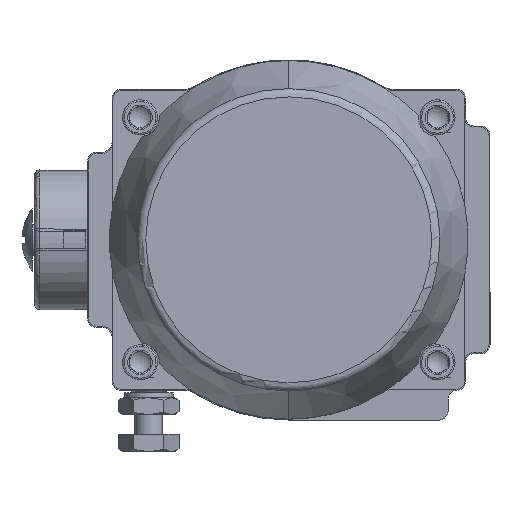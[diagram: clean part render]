
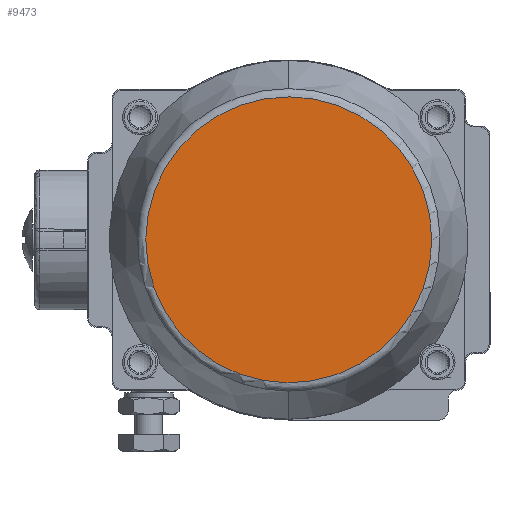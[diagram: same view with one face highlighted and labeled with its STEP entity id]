
A CAD part, left-side view. The second image highlights one B-rep face of the part: STEP entity #9473.
In plain terms, the highlighted planar face has unit normal (-1, 0, 0) as drawn and (0, 0, -1) by its records, which use the part's own axes.
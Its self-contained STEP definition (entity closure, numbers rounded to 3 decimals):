
#9473=ADVANCED_FACE('',(#20417),#20419,.F.);
#20417=FACE_BOUND('',#20418,.T.);
#20418=EDGE_LOOP('',(#28646));
#20419=PLANE('',#20420);
#20420=AXIS2_PLACEMENT_3D('',#20421,#20422,#20423);
#20421=CARTESIAN_POINT('',(0.,0.,-267.));
#20422=DIRECTION('',(0.,0.,1.));
#20423=DIRECTION('',(1.,0.,0.));
#28646=ORIENTED_EDGE('',*,*,#31940,.F.);
#31940=EDGE_CURVE('',#36175,#36175,#36176,.T.);
#36175=VERTEX_POINT('',#61720);
#36176=CIRCLE('',#61721,81.717);
#61720=CARTESIAN_POINT('',(-0.435,81.716,-267.));
#61721=AXIS2_PLACEMENT_3D('',#61722,#61723,#61724);
#61722=CARTESIAN_POINT('',(0.,0.,-267.));
#61723=DIRECTION('',(0.,0.,1.));
#61724=DIRECTION('',(1.,0.,0.));
